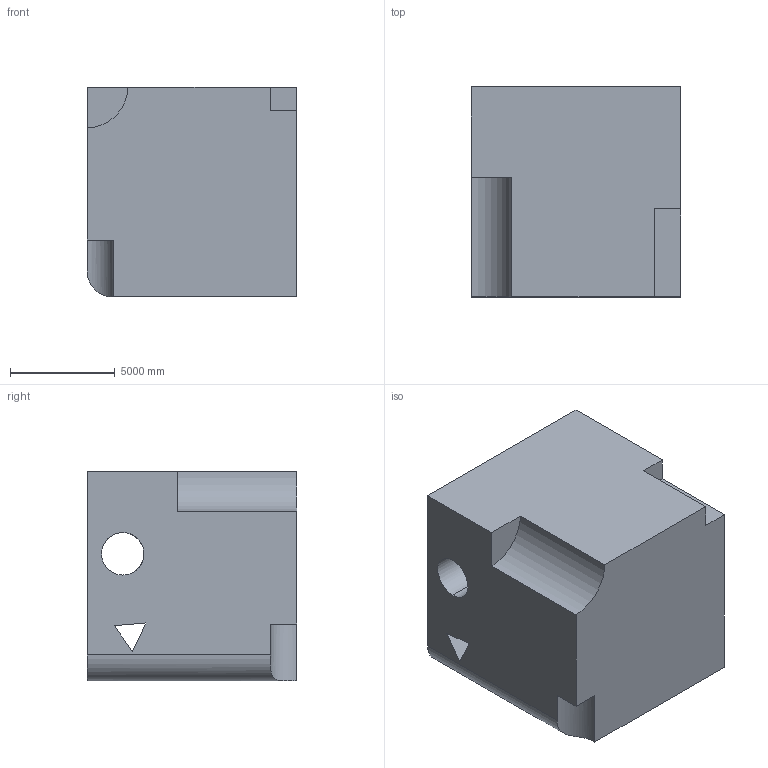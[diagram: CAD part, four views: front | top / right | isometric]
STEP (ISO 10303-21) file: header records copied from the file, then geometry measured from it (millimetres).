
FILE_DESCRIPTION (( 'STEP AP203' ), '1' );
FILE_NAME ('373.STEP', '2022-09-07T13:18:08', ( 'user' ), ( '' ), 'SwSTEP 2.0', 'SolidWorks 2021', '' );
FILE_SCHEMA (( 'CONFIG_CONTROL_DESIGN' ));
Length unit declared in the file: centimetre
Products named in the file (1): 373
Bounding box: 10000 x 10000 x 10000 mm (x, y, z)
Volume: 905407432392.4 mm3; surface area: 721626449.4 mm2
Topology: 1 solids, 1 shells, 36 faces, 105 edges, 70 vertices
Faces by surface type: plane 31, cylinder 5
Entity records: 1356 total; most frequent: CARTESIAN_POINT 337, ORIENTED_EDGE 210, DIRECTION 177, EDGE_CURVE 105, VECTOR 81, LINE 81, VERTEX_POINT 70, AXIS2_PLACEMENT_3D 48
